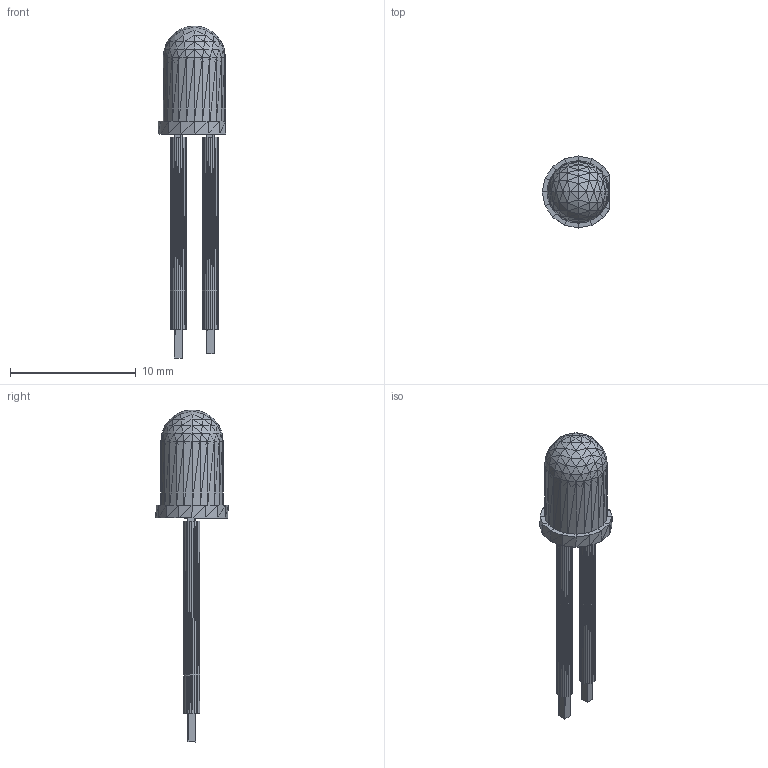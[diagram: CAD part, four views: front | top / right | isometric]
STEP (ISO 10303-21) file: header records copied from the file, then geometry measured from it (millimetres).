
FILE_DESCRIPTION(('HOOPS Exchange Step'),'2;1');
FILE_NAME('***.stp');
FILE_SCHEMA( ('AP242_MANAGED_MODEL_BASED_3D_ENGINEERING_MIM_LF {1 0 10303 442 1 1 4 }') );
Length unit declared in the file: inch
Products named in the file (9): LED800MIL_2; LED800MIL_3; LED800MIL_4; LED800MIL_5; LED800MIL_6; LED800MIL_7; LED800MIL_8; LED800MIL_9; LED800MIL
Assembly tree (8 placements, depth 2):
  LED800MIL
    LED800MIL_2
    LED800MIL_3
    LED800MIL_4
    LED800MIL_5
    LED800MIL_6
    LED800MIL_7
    LED800MIL_8
    LED800MIL_9
Bounding box: 5.35 x 5.72 x 26.35 mm (x, y, z)
Volume: 246.1 mm3; surface area: 514.1 mm2
Topology: 8 solids, 8 shells, 952 faces, 1428 edges, 492 vertices
Faces by surface type: plane 952
Entity records: 18990 total; most frequent: DIRECTION 3368, CARTESIAN_POINT 2890, ORIENTED_EDGE 2856, VECTOR 1428, LINE 1428, EDGE_CURVE 1428, AXIS2_PLACEMENT_3D 970, PLANE 952
